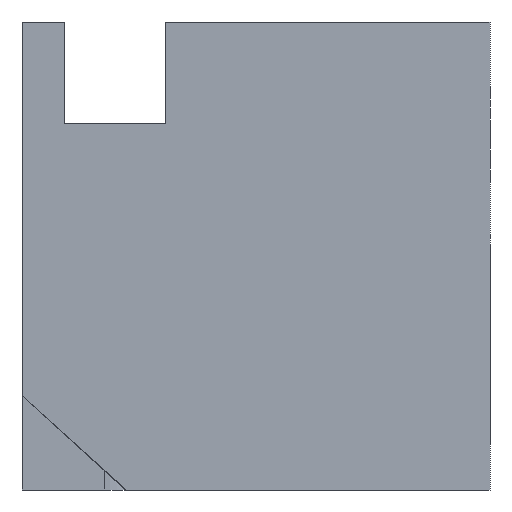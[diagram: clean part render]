
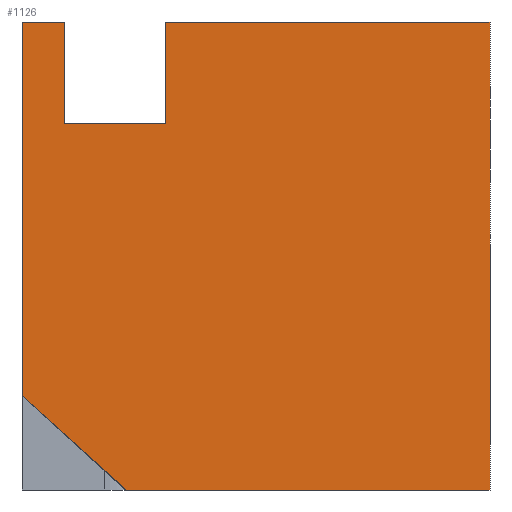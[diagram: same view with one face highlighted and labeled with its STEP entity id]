
A CAD part, front view. The second image highlights one B-rep face of the part: STEP entity #1126.
In plain terms, the highlighted planar face has unit normal (0, -1, 0).
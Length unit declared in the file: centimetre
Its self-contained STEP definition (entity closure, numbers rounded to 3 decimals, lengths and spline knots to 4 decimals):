
#3 = DIRECTION ( 'NONE',  ( 0., 0., 1. ) ) ;
#97 = CARTESIAN_POINT ( 'NONE',  ( 1000., 0., 0. ) ) ;
#111 = AXIS2_PLACEMENT_3D ( 'NONE', #1874, #430, #1701 ) ;
#141 = VECTOR ( 'NONE', #265, 100. ) ;
#144 = ORIENTED_EDGE ( 'NONE', *, *, #518, .T. ) ;
#169 = VERTEX_POINT ( 'NONE', #685 ) ;
#191 = CARTESIAN_POINT ( 'NONE',  ( 305.862, 0., 782.833 ) ) ;
#199 = ORIENTED_EDGE ( 'NONE', *, *, #1810, .F. ) ;
#210 = EDGE_CURVE ( 'NONE', #1305, #801, #329, .T. ) ;
#212 = CARTESIAN_POINT ( 'NONE',  ( 0., 0., 1000. ) ) ;
#265 = DIRECTION ( 'NONE',  ( 0., 0., -1. ) ) ;
#274 = VECTOR ( 'NONE', #359, 100. ) ;
#281 = VERTEX_POINT ( 'NONE', #191 ) ;
#329 = LINE ( 'NONE', #212, #1418 ) ;
#359 = DIRECTION ( 'NONE',  ( 1., 0., 0. ) ) ;
#402 = EDGE_LOOP ( 'NONE', ( #1677, #1686, #1663, #519, #953, #1733, #411, #144, #199 ) ) ;
#411 = ORIENTED_EDGE ( 'NONE', *, *, #1313, .T. ) ;
#412 = CARTESIAN_POINT ( 'NONE',  ( 90.1347, 0., 782.833 ) ) ;
#430 = DIRECTION ( 'NONE',  ( 0., 1., 0. ) ) ;
#470 = EDGE_CURVE ( 'NONE', #486, #826, #633, .T. ) ;
#486 = VERTEX_POINT ( 'NONE', #1416 ) ;
#512 = DIRECTION ( 'NONE',  ( 0., 0., -1. ) ) ;
#518 = EDGE_CURVE ( 'NONE', #1498, #2015, #1090, .T. ) ;
#519 = ORIENTED_EDGE ( 'NONE', *, *, #1593, .F. ) ;
#530 = VERTEX_POINT ( 'NONE', #1918 ) ;
#567 = CARTESIAN_POINT ( 'NONE',  ( 1000., 0., 1000. ) ) ;
#632 = FACE_OUTER_BOUND ( 'NONE', #402, .T. ) ;
#633 = LINE ( 'NONE', #1740, #1510 ) ;
#685 = CARTESIAN_POINT ( 'NONE',  ( 0., 0., 200.9847 ) ) ;
#689 = LINE ( 'NONE', #709, #1662 ) ;
#691 = VECTOR ( 'NONE', #3, 100. ) ;
#703 = CARTESIAN_POINT ( 'NONE',  ( 0., 0., 200.9847 ) ) ;
#709 = CARTESIAN_POINT ( 'NONE',  ( 90.1347, 0., 782.833 ) ) ;
#721 = LINE ( 'NONE', #567, #141 ) ;
#801 = VERTEX_POINT ( 'NONE', #1787 ) ;
#826 = VERTEX_POINT ( 'NONE', #97 ) ;
#846 = DIRECTION ( 'NONE',  ( 1., 0., 0. ) ) ;
#953 = ORIENTED_EDGE ( 'NONE', *, *, #210, .F. ) ;
#976 = EDGE_CURVE ( 'NONE', #530, #169, #1606, .T. ) ;
#977 = DIRECTION ( 'NONE',  ( 1., 0., 0. ) ) ;
#1090 = LINE ( 'NONE', #1907, #691 ) ;
#1126 = ADVANCED_FACE ( 'NONE', ( #632 ), #1249, .F. ) ;
#1249 = PLANE ( 'NONE',  #111 ) ;
#1305 = VERTEX_POINT ( 'NONE', #1795 ) ;
#1313 = EDGE_CURVE ( 'NONE', #281, #1498, #689, .T. ) ;
#1342 = LINE ( 'NONE', #703, #1923 ) ;
#1346 = DIRECTION ( 'NONE',  ( -1., 0., 0. ) ) ;
#1416 = CARTESIAN_POINT ( 'NONE',  ( 222.3116, 0., 0. ) ) ;
#1418 = VECTOR ( 'NONE', #846, 100. ) ;
#1493 = CARTESIAN_POINT ( 'NONE',  ( 0., 0., 1000. ) ) ;
#1498 = VERTEX_POINT ( 'NONE', #412 ) ;
#1510 = VECTOR ( 'NONE', #977, 100. ) ;
#1515 = DIRECTION ( 'NONE',  ( -0.742, 0., 0.671 ) ) ;
#1526 = VECTOR ( 'NONE', #512, 100. ) ;
#1527 = EDGE_CURVE ( 'NONE', #486, #169, #1342, .T. ) ;
#1593 = EDGE_CURVE ( 'NONE', #801, #826, #721, .T. ) ;
#1606 = LINE ( 'NONE', #1784, #1782 ) ;
#1633 = CARTESIAN_POINT ( 'NONE',  ( 90.1347, 0., 1000. ) ) ;
#1662 = VECTOR ( 'NONE', #1346, 100. ) ;
#1663 = ORIENTED_EDGE ( 'NONE', *, *, #470, .T. ) ;
#1677 = ORIENTED_EDGE ( 'NONE', *, *, #976, .T. ) ;
#1686 = ORIENTED_EDGE ( 'NONE', *, *, #1527, .F. ) ;
#1701 = DIRECTION ( 'NONE',  ( 0., 0., 1. ) ) ;
#1733 = ORIENTED_EDGE ( 'NONE', *, *, #1939, .T. ) ;
#1740 = CARTESIAN_POINT ( 'NONE',  ( 0., 0., 0. ) ) ;
#1774 = CARTESIAN_POINT ( 'NONE',  ( 305.862, 0., 782.833 ) ) ;
#1782 = VECTOR ( 'NONE', #1793, 100. ) ;
#1784 = CARTESIAN_POINT ( 'NONE',  ( 0., 0., 1000. ) ) ;
#1787 = CARTESIAN_POINT ( 'NONE',  ( 1000., 0., 1000. ) ) ;
#1793 = DIRECTION ( 'NONE',  ( 0., 0., -1. ) ) ;
#1795 = CARTESIAN_POINT ( 'NONE',  ( 305.862, 0., 1000. ) ) ;
#1804 = LINE ( 'NONE', #1774, #1526 ) ;
#1810 = EDGE_CURVE ( 'NONE', #530, #2015, #1930, .T. ) ;
#1874 = CARTESIAN_POINT ( 'NONE',  ( 0., 0., 1000. ) ) ;
#1907 = CARTESIAN_POINT ( 'NONE',  ( 90.1347, 0., 782.833 ) ) ;
#1918 = CARTESIAN_POINT ( 'NONE',  ( 0., 0., 1000. ) ) ;
#1923 = VECTOR ( 'NONE', #1515, 100. ) ;
#1930 = LINE ( 'NONE', #1493, #274 ) ;
#1939 = EDGE_CURVE ( 'NONE', #1305, #281, #1804, .T. ) ;
#2015 = VERTEX_POINT ( 'NONE', #1633 ) ;
